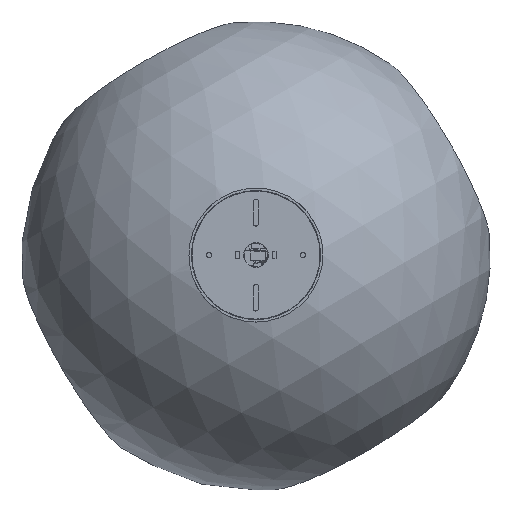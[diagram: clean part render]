
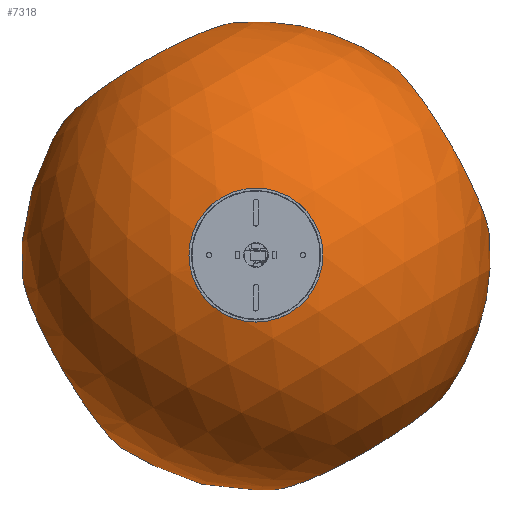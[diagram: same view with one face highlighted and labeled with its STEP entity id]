
A CAD part, top view. The second image highlights one B-rep face of the part: STEP entity #7318.
In plain terms, the highlighted spherical face has radius 200 mm.
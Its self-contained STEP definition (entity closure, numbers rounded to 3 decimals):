
#1810=FACE_BOUND('',#2571,.T.);
#1811=FACE_BOUND('',#2572,.T.);
#1812=FACE_BOUND('',#2573,.T.);
#2116=FACE_OUTER_BOUND('',#2570,.T.);
#2570=EDGE_LOOP('',(#5994,#5995,#5996,#5997,#5998,#5999,#6000,#6001,#6002,
#6003,#6004));
#2571=EDGE_LOOP('',(#6005));
#2572=EDGE_LOOP('',(#6006,#6007));
#2573=EDGE_LOOP('',(#6008,#6009));
#2906=CIRCLE('',#7945,23.);
#2909=CIRCLE('',#7948,23.);
#2910=CIRCLE('',#7950,90.);
#2911=CIRCLE('',#7951,200.);
#2912=CIRCLE('',#7952,90.);
#2913=CIRCLE('',#7953,200.);
#2914=CIRCLE('',#7954,90.);
#2915=CIRCLE('',#7955,90.);
#2916=CIRCLE('',#7956,90.);
#2917=CIRCLE('',#7957,90.);
#2918=CIRCLE('',#7958,90.);
#2919=CIRCLE('',#7959,90.);
#2920=CIRCLE('',#7960,60.);
#2921=CIRCLE('',#7961,60.);
#3443=VERTEX_POINT('',#11820);
#3444=VERTEX_POINT('',#11821);
#3447=VERTEX_POINT('',#11830);
#3448=VERTEX_POINT('',#11831);
#3449=VERTEX_POINT('',#11833);
#3450=VERTEX_POINT('',#11835);
#3451=VERTEX_POINT('',#11837);
#3452=VERTEX_POINT('',#11839);
#3453=VERTEX_POINT('',#11842);
#3454=VERTEX_POINT('',#11846);
#3455=VERTEX_POINT('',#11848);
#3456=VERTEX_POINT('',#11849);
#4318=EDGE_CURVE('',#3443,#3444,#2906,.T.);
#4322=EDGE_CURVE('',#3444,#3443,#2909,.T.);
#4323=EDGE_CURVE('',#3447,#3448,#2910,.T.);
#4324=EDGE_CURVE('',#3448,#3449,#2911,.T.);
#4325=EDGE_CURVE('',#3449,#3450,#2912,.T.);
#4326=EDGE_CURVE('',#3450,#3451,#2913,.T.);
#4327=EDGE_CURVE('',#3451,#3452,#2914,.T.);
#4328=EDGE_CURVE('',#3452,#3451,#2915,.T.);
#4329=EDGE_CURVE('',#3450,#3453,#2916,.T.);
#4330=EDGE_CURVE('',#3453,#3449,#2917,.T.);
#4331=EDGE_CURVE('',#3448,#3447,#2918,.T.);
#4332=EDGE_CURVE('',#3454,#3454,#2919,.T.);
#4333=EDGE_CURVE('',#3455,#3456,#2920,.T.);
#4334=EDGE_CURVE('',#3456,#3455,#2921,.T.);
#5994=ORIENTED_EDGE('',*,*,#4323,.T.);
#5995=ORIENTED_EDGE('',*,*,#4324,.T.);
#5996=ORIENTED_EDGE('',*,*,#4325,.T.);
#5997=ORIENTED_EDGE('',*,*,#4326,.T.);
#5998=ORIENTED_EDGE('',*,*,#4327,.T.);
#5999=ORIENTED_EDGE('',*,*,#4328,.T.);
#6000=ORIENTED_EDGE('',*,*,#4326,.F.);
#6001=ORIENTED_EDGE('',*,*,#4329,.T.);
#6002=ORIENTED_EDGE('',*,*,#4330,.T.);
#6003=ORIENTED_EDGE('',*,*,#4324,.F.);
#6004=ORIENTED_EDGE('',*,*,#4331,.T.);
#6005=ORIENTED_EDGE('',*,*,#4332,.T.);
#6006=ORIENTED_EDGE('',*,*,#4333,.T.);
#6007=ORIENTED_EDGE('',*,*,#4334,.T.);
#6008=ORIENTED_EDGE('',*,*,#4318,.F.);
#6009=ORIENTED_EDGE('',*,*,#4322,.F.);
#6617=SPHERICAL_SURFACE('',#7949,200.);
#7318=ADVANCED_FACE('',(#2116,#1810,#1811,#1812),#6617,.T.);
#7945=AXIS2_PLACEMENT_3D('',#11822,#9576,#9577);
#7948=AXIS2_PLACEMENT_3D('',#11828,#9583,#9584);
#7949=AXIS2_PLACEMENT_3D('',#11829,#9585,#9586);
#7950=AXIS2_PLACEMENT_3D('',#11832,#9587,#9588);
#7951=AXIS2_PLACEMENT_3D('',#11834,#9589,#9590);
#7952=AXIS2_PLACEMENT_3D('',#11836,#9591,#9592);
#7953=AXIS2_PLACEMENT_3D('',#11838,#9593,#9594);
#7954=AXIS2_PLACEMENT_3D('',#11840,#9595,#9596);
#7955=AXIS2_PLACEMENT_3D('',#11841,#9597,#9598);
#7956=AXIS2_PLACEMENT_3D('',#11843,#9599,#9600);
#7957=AXIS2_PLACEMENT_3D('',#11844,#9601,#9602);
#7958=AXIS2_PLACEMENT_3D('',#11845,#9603,#9604);
#7959=AXIS2_PLACEMENT_3D('',#11847,#9605,#9606);
#7960=AXIS2_PLACEMENT_3D('',#11850,#9607,#9608);
#7961=AXIS2_PLACEMENT_3D('',#11851,#9609,#9610);
#9576=DIRECTION('center_axis',(0.,0.,
1.));
#9577=DIRECTION('ref_axis',(-0.866,-0.5,0.));
#9583=DIRECTION('center_axis',(0.,0.,
1.));
#9584=DIRECTION('ref_axis',(-0.866,-0.5,0.));
#9585=DIRECTION('center_axis',(-0.5,0.866,0.));
#9586=DIRECTION('ref_axis',(-0.866,-0.5,0.));
#9587=DIRECTION('center_axis',(0.492,-0.853,0.174));
#9588=DIRECTION('ref_axis',(0.087,-0.15,-0.985));
#9589=DIRECTION('center_axis',(0.,0.,
-1.));
#9590=DIRECTION('ref_axis',(0.866,0.5,0.));
#9591=DIRECTION('center_axis',(-0.853,-0.492,0.174));
#9592=DIRECTION('ref_axis',(-0.15,-0.087,-0.985));
#9593=DIRECTION('center_axis',(0.,0.,
-1.));
#9594=DIRECTION('ref_axis',(0.866,0.5,0.));
#9595=DIRECTION('center_axis',(-0.492,0.853,0.174));
#9596=DIRECTION('ref_axis',(-0.087,0.15,-0.985));
#9597=DIRECTION('center_axis',(-0.492,0.853,0.174));
#9598=DIRECTION('ref_axis',(-0.087,0.15,-0.985));
#9599=DIRECTION('center_axis',(-0.853,-0.492,0.174));
#9600=DIRECTION('ref_axis',(-0.15,-0.087,-0.985));
#9601=DIRECTION('center_axis',(-0.853,-0.492,0.174));
#9602=DIRECTION('ref_axis',(-0.15,-0.087,-0.985));
#9603=DIRECTION('center_axis',(0.492,-0.853,0.174));
#9604=DIRECTION('ref_axis',(0.087,-0.15,-0.985));
#9605=DIRECTION('center_axis',(0.853,0.492,0.174));
#9606=DIRECTION('ref_axis',(0.15,0.087,-0.985));
#9607=DIRECTION('center_axis',(0.,0.,
1.));
#9608=DIRECTION('ref_axis',(-0.866,-0.5,0.));
#9609=DIRECTION('center_axis',(0.,0.,
1.));
#9610=DIRECTION('ref_axis',(-0.866,-0.5,0.));
#11820=CARTESIAN_POINT('',(19.919,11.5,154.02));
#11821=CARTESIAN_POINT('',(-19.919,-11.5,154.02));
#11822=CARTESIAN_POINT('Origin',(0.,0.,
154.02));
#11828=CARTESIAN_POINT('Origin',(0.,0.,
154.02));
#11829=CARTESIAN_POINT('Origin',(0.,0.,
-44.653));
#11830=CARTESIAN_POINT('',(-95.76,165.862,12.965));
#11831=CARTESIAN_POINT('',(-17.666,199.218,-44.653));
#11832=CARTESIAN_POINT('Origin',(-87.946,152.327,-75.667));
#11833=CARTESIAN_POINT('',(114.908,163.695,-44.653));
#11834=CARTESIAN_POINT('Origin',(0.,0.,
-44.653));
#11835=CARTESIAN_POINT('',(199.218,17.666,-44.653));
#11836=CARTESIAN_POINT('Origin',(152.327,87.946,-75.667));
#11837=CARTESIAN_POINT('',(163.695,-114.908,-44.653));
#11838=CARTESIAN_POINT('Origin',(0.,0.,
-44.653));
#11839=CARTESIAN_POINT('',(95.76,-165.862,12.965));
#11840=CARTESIAN_POINT('Origin',(87.946,-152.327,-75.667));
#11841=CARTESIAN_POINT('Origin',(87.946,-152.327,-75.667));
#11842=CARTESIAN_POINT('',(165.862,95.76,12.965));
#11843=CARTESIAN_POINT('Origin',(152.327,87.946,-75.667));
#11844=CARTESIAN_POINT('Origin',(152.327,87.946,-75.667));
#11845=CARTESIAN_POINT('Origin',(-87.946,152.327,-75.667));
#11846=CARTESIAN_POINT('',(-165.862,-95.76,12.965));
#11847=CARTESIAN_POINT('Origin',(-152.327,-87.946,-75.667));
#11848=CARTESIAN_POINT('',(51.962,30.,-235.441));
#11849=CARTESIAN_POINT('',(-51.962,-30.,-235.441));
#11850=CARTESIAN_POINT('Origin',(0.,0.,
-235.441));
#11851=CARTESIAN_POINT('Origin',(0.,0.,
-235.441));
